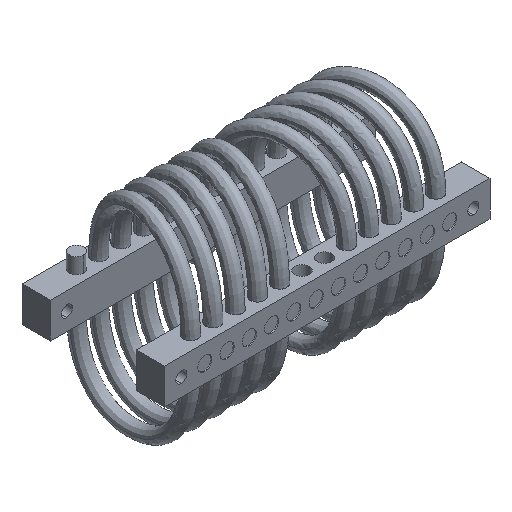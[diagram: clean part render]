
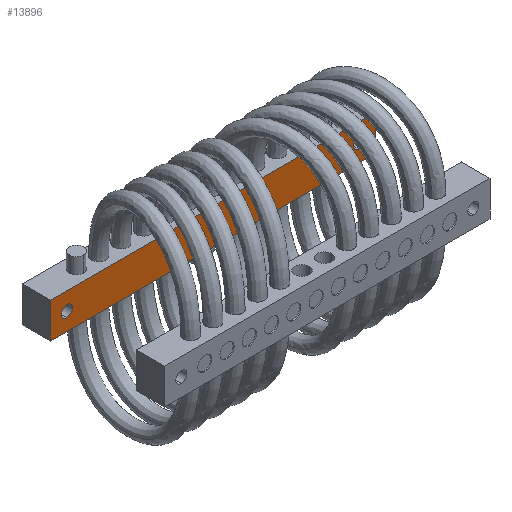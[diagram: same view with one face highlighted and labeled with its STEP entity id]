
A CAD part, isometric view. The second image highlights one B-rep face of the part: STEP entity #13896.
In plain terms, the highlighted planar face has unit normal (0, -1, 0).
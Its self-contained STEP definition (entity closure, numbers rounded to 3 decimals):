
#3 = CARTESIAN_POINT ( 'NONE',  ( 65.55, 19.3, 0. ) ) ;
#1086 = DIRECTION ( 'NONE',  ( 0., 1., 0. ) ) ;
#1244 = ORIENTED_EDGE ( 'NONE', *, *, #6877, .T. ) ;
#1694 = EDGE_CURVE ( 'NONE', #10829, #20301, #3865, .T. ) ;
#2012 = EDGE_LOOP ( 'NONE', ( #1244, #20477 ) ) ;
#2083 = DIRECTION ( 'NONE',  ( 0., 0., 1. ) ) ;
#2165 = CIRCLE ( 'NONE', #4785, 2.5 ) ;
#2891 = CARTESIAN_POINT ( 'NONE',  ( -65.55, 19.3, -2.5 ) ) ;
#2897 = CARTESIAN_POINT ( 'NONE',  ( 73.05, 19.3, -7.95 ) ) ;
#3137 = CIRCLE ( 'NONE', #25402, 2.5 ) ;
#3186 = CARTESIAN_POINT ( 'NONE',  ( 73.05, 19.3, 7.95 ) ) ;
#3346 = VERTEX_POINT ( 'NONE', #20053 ) ;
#3865 = CIRCLE ( 'NONE', #16085, 2.5 ) ;
#4236 = CARTESIAN_POINT ( 'NONE',  ( 73.05, 19.3, -7.95 ) ) ;
#4431 = VERTEX_POINT ( 'NONE', #6876 ) ;
#4615 = CARTESIAN_POINT ( 'NONE',  ( 73.05, 19.3, 7.95 ) ) ;
#4785 = AXIS2_PLACEMENT_3D ( 'NONE', #8719, #23292, #10800 ) ;
#5794 = LINE ( 'NONE', #2897, #17535 ) ;
#6155 = EDGE_CURVE ( 'NONE', #20301, #10829, #3137, .T. ) ;
#6248 = PLANE ( 'NONE',  #15354 ) ;
#6266 = ORIENTED_EDGE ( 'NONE', *, *, #25660, .F. ) ;
#6412 = VECTOR ( 'NONE', #9146, 1000. ) ;
#6437 = EDGE_LOOP ( 'NONE', ( #23494, #22542 ) ) ;
#6480 = CARTESIAN_POINT ( 'NONE',  ( -65.55, 19.3, 0. ) ) ;
#6835 = AXIS2_PLACEMENT_3D ( 'NONE', #3, #14565, #2083 ) ;
#6876 = CARTESIAN_POINT ( 'NONE',  ( -73.05, 19.3, 7.95 ) ) ;
#6877 = EDGE_CURVE ( 'NONE', #3346, #14458, #2165, .T. ) ;
#7530 = EDGE_LOOP ( 'NONE', ( #14070, #10471, #6266, #8239 ) ) ;
#8239 = ORIENTED_EDGE ( 'NONE', *, *, #25439, .T. ) ;
#8434 = DIRECTION ( 'NONE',  ( 0., 0., 1. ) ) ;
#8574 = DIRECTION ( 'NONE',  ( 0., 0., 1. ) ) ;
#8719 = CARTESIAN_POINT ( 'NONE',  ( 65.55, 19.3, 0. ) ) ;
#8749 = FACE_OUTER_BOUND ( 'NONE', #7530, .T. ) ;
#9146 = DIRECTION ( 'NONE',  ( 0., 0., -1. ) ) ;
#10471 = ORIENTED_EDGE ( 'NONE', *, *, #19644, .F. ) ;
#10564 = VECTOR ( 'NONE', #17107, 1000. ) ;
#10800 = DIRECTION ( 'NONE',  ( 0., 0., 1. ) ) ;
#10829 = VERTEX_POINT ( 'NONE', #24659 ) ;
#11093 = DIRECTION ( 'NONE',  ( 0., 0., -1. ) ) ;
#11193 = DIRECTION ( 'NONE',  ( -1., 0., 0. ) ) ;
#11359 = FACE_BOUND ( 'NONE', #6437, .T. ) ;
#12216 = LINE ( 'NONE', #25681, #22652 ) ;
#12400 = CARTESIAN_POINT ( 'NONE',  ( -73.05, 19.3, -7.95 ) ) ;
#13561 = CARTESIAN_POINT ( 'NONE',  ( -65.55, 19.3, 0. ) ) ;
#13896 = ADVANCED_FACE ( 'NONE', ( #16263, #11359, #8749 ), #6248, .F. ) ;
#14070 = ORIENTED_EDGE ( 'NONE', *, *, #26289, .T. ) ;
#14458 = VERTEX_POINT ( 'NONE', #17433 ) ;
#14565 = DIRECTION ( 'NONE',  ( 0., 1., 0. ) ) ;
#14807 = LINE ( 'NONE', #4615, #10564 ) ;
#15354 = AXIS2_PLACEMENT_3D ( 'NONE', #4236, #20901, #8434 ) ;
#15632 = DIRECTION ( 'NONE',  ( 0., 0., 1. ) ) ;
#16085 = AXIS2_PLACEMENT_3D ( 'NONE', #13561, #1086, #15632 ) ;
#16263 = FACE_BOUND ( 'NONE', #2012, .T. ) ;
#16360 = VERTEX_POINT ( 'NONE', #20576 ) ;
#17107 = DIRECTION ( 'NONE',  ( -1., 0., 0. ) ) ;
#17433 = CARTESIAN_POINT ( 'NONE',  ( 65.55, 19.3, -2.5 ) ) ;
#17535 = VECTOR ( 'NONE', #11193, 1000. ) ;
#18800 = CIRCLE ( 'NONE', #6835, 2.5 ) ;
#19644 = EDGE_CURVE ( 'NONE', #16360, #25174, #5794, .T. ) ;
#20053 = CARTESIAN_POINT ( 'NONE',  ( 65.55, 19.3, 2.5 ) ) ;
#20301 = VERTEX_POINT ( 'NONE', #2891 ) ;
#20477 = ORIENTED_EDGE ( 'NONE', *, *, #22773, .T. ) ;
#20576 = CARTESIAN_POINT ( 'NONE',  ( 73.05, 19.3, -7.95 ) ) ;
#20901 = DIRECTION ( 'NONE',  ( 0., 1., 0. ) ) ;
#21041 = DIRECTION ( 'NONE',  ( 0., 1., 0. ) ) ;
#21622 = CARTESIAN_POINT ( 'NONE',  ( -73.05, 19.3, -7.95 ) ) ;
#22542 = ORIENTED_EDGE ( 'NONE', *, *, #6155, .T. ) ;
#22652 = VECTOR ( 'NONE', #11093, 1000. ) ;
#22773 = EDGE_CURVE ( 'NONE', #14458, #3346, #18800, .T. ) ;
#23292 = DIRECTION ( 'NONE',  ( 0., 1., 0. ) ) ;
#23494 = ORIENTED_EDGE ( 'NONE', *, *, #1694, .T. ) ;
#23710 = LINE ( 'NONE', #21622, #6412 ) ;
#24659 = CARTESIAN_POINT ( 'NONE',  ( -65.55, 19.3, 2.5 ) ) ;
#24871 = VERTEX_POINT ( 'NONE', #3186 ) ;
#25174 = VERTEX_POINT ( 'NONE', #12400 ) ;
#25402 = AXIS2_PLACEMENT_3D ( 'NONE', #6480, #21041, #8574 ) ;
#25439 = EDGE_CURVE ( 'NONE', #24871, #4431, #14807, .T. ) ;
#25660 = EDGE_CURVE ( 'NONE', #24871, #16360, #12216, .T. ) ;
#25681 = CARTESIAN_POINT ( 'NONE',  ( 73.05, 19.3, -7.95 ) ) ;
#26289 = EDGE_CURVE ( 'NONE', #4431, #25174, #23710, .T. ) ;
